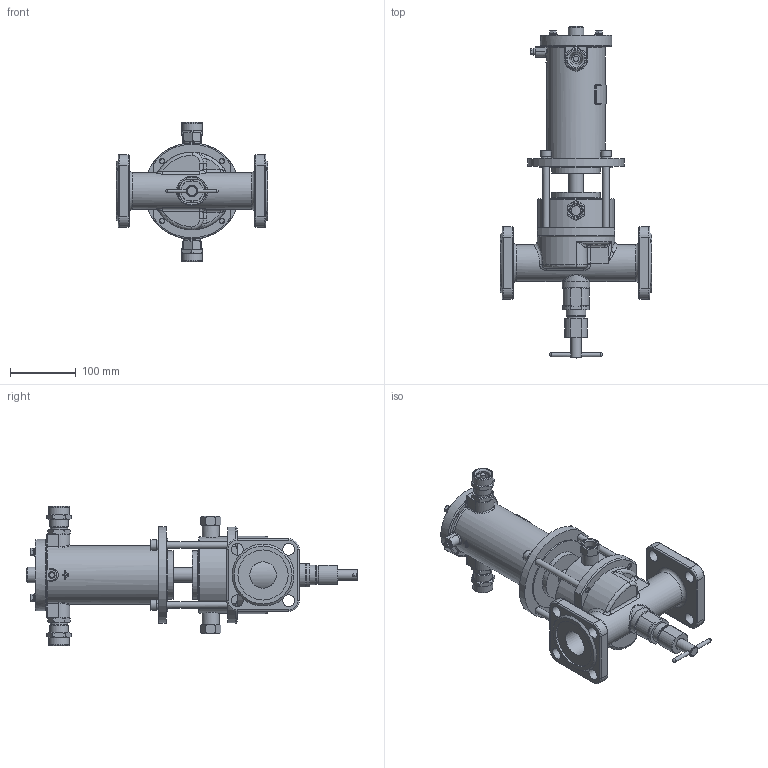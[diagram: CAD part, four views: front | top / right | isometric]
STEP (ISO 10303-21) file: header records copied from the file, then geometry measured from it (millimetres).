
FILE_DESCRIPTION(('STEP AP203'), '1');
FILE_NAME('ÑÅÍÑ DN40PN25-Ì-ÑÂ.stp', '2018-09-19T08:56:43', ('Îðëîâ Å.Â.'), ('ÎÎÎ ÍÏÏ Ñåíñîð'), 'ASCON STEP Converter 1.3', 'Kompas 3D', '');
FILE_SCHEMA(('CONFIG_CONTROL_DESIGN','SUPPORT_RESOURCE_SCHEMA'));
Length unit declared in the file: millimetre
Products named in the file (1): 116
Bounding box: 230 x 503.5 x 211 mm (x, y, z)
Volume: 1843504.8 mm3; surface area: 503129 mm2
Topology: 2 solids, 20 shells, 2050 faces, 5388 edges, 3475 vertices
Faces by surface type: cylinder 1030, plane 756, cone 143, torus 54, bspline 47, extrusion 16, sphere 4
Full cylindrical faces by diameter (mm): 3.5 x2, 4.134 x1, 4.917 x4, 5 x1, 6 x10, 6.5 x4, 8 x8, 8.2 x1, 8.376 x4, 9 x1, 10 x5, 11 x5, 12 x4, 13 x2, 15 x2, 16 x6, 17 x2, 18 x9, 18.631 x2, 20 x5, 21.5 x2, 22 x3, 22.376 x2, 23 x1, 23.5 x2, 24 x3, 24.5 x2, 26 x6, 26.376 x2, 27.8 x1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
Entity records: 80290 total; most frequent: CARTESIAN_POINT 28579, DIRECTION 11215, ORIENTED_EDGE 10718, EDGE_CURVE 5359, AXIS2_PLACEMENT_3D 4317, VERTEX_POINT 3475, VECTOR 2581, LINE 2565
